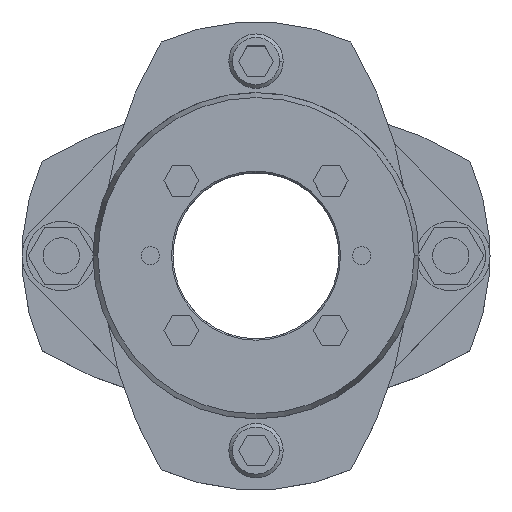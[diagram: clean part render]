
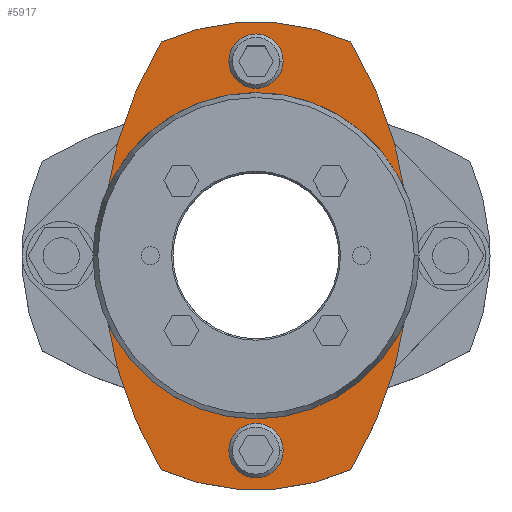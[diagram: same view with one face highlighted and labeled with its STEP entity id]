
A CAD part, top view. The second image highlights one B-rep face of the part: STEP entity #5917.
In plain terms, the highlighted planar face has unit normal (0, 0, 1).
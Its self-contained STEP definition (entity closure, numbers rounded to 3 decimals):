
#773=CARTESIAN_POINT('',(-51.,0.,22.0));
#774=VERTEX_POINT('',#773);
#790=CARTESIAN_POINT('',(-31.43,-70.841,22.0));
#791=VERTEX_POINT('',#790);
#798=CARTESIAN_POINT('',(87.,0.,22.0));
#799=DIRECTION('',(0.0,0.0,-1.0));
#800=DIRECTION('',(-1.0,0.0,0.0));
#801=AXIS2_PLACEMENT_3D('',#798,#799,#800);
#802=CIRCLE('',#801,138.);
#803=EDGE_CURVE('',#791,#774,#802,.T.);
#813=CARTESIAN_POINT('',(51.,0.,22.0));
#814=VERTEX_POINT('',#813);
#823=CARTESIAN_POINT('',(31.43,-70.841,22.0));
#824=VERTEX_POINT('',#823);
#825=CARTESIAN_POINT('',(-87.,0.,22.0));
#826=DIRECTION('',(0.0,0.0,-1.0));
#827=DIRECTION('',(-1.0,0.0,0.0));
#828=AXIS2_PLACEMENT_3D('',#825,#826,#827);
#829=CIRCLE('',#828,138.);
#830=EDGE_CURVE('',#814,#824,#829,.T.);
#1079=CARTESIAN_POINT('',(-41.0,0.,22.0));
#1080=VERTEX_POINT('',#1079);
#1130=CARTESIAN_POINT('',(41.0,0.,22.0));
#1131=VERTEX_POINT('',#1130);
#1138=CARTESIAN_POINT('',(0.,0.,22.0));
#1139=DIRECTION('',(0.0,0.0,-1.0));
#1140=DIRECTION('',(-1.0,0.0,0.0));
#1141=AXIS2_PLACEMENT_3D('',#1138,#1139,#1140);
#1142=CIRCLE('',#1141,41.0);
#1143=EDGE_CURVE('',#1080,#1131,#1142,.T.);
#1239=CARTESIAN_POINT('',(-9.,-64.5,22.0));
#1240=VERTEX_POINT('',#1239);
#1256=CARTESIAN_POINT('',(9.,-64.5,22.0));
#1257=VERTEX_POINT('',#1256);
#1264=CARTESIAN_POINT('',(0.,-64.5,22.0));
#1265=DIRECTION('',(0.0,0.0,-1.0));
#1266=DIRECTION('',(-1.0,0.0,0.0));
#1267=AXIS2_PLACEMENT_3D('',#1264,#1265,#1266);
#1268=CIRCLE('',#1267,9.0);
#1269=EDGE_CURVE('',#1240,#1257,#1268,.T.);
#1313=CARTESIAN_POINT('',(-9.,64.5,22.0));
#1314=VERTEX_POINT('',#1313);
#1330=CARTESIAN_POINT('',(9.,64.5,22.0));
#1331=VERTEX_POINT('',#1330);
#1338=CARTESIAN_POINT('',(0.,64.5,22.0));
#1339=DIRECTION('',(0.0,0.0,-1.0));
#1340=DIRECTION('',(-1.0,0.0,0.0));
#1341=AXIS2_PLACEMENT_3D('',#1338,#1339,#1340);
#1342=CIRCLE('',#1341,9.0);
#1343=EDGE_CURVE('',#1314,#1331,#1342,.T.);
#4458=CARTESIAN_POINT('',(0.,64.5,22.0));
#4459=DIRECTION('',(0.0,0.0,-1.0));
#4460=DIRECTION('',(-1.0,0.0,0.0));
#4461=AXIS2_PLACEMENT_3D('',#4458,#4459,#4460);
#4462=CIRCLE('',#4461,9.0);
#4463=EDGE_CURVE('',#1331,#1314,#4462,.T.);
#4518=CARTESIAN_POINT('',(0.,-64.5,22.0));
#4519=DIRECTION('',(0.0,0.0,-1.0));
#4520=DIRECTION('',(-1.0,0.0,0.0));
#4521=AXIS2_PLACEMENT_3D('',#4518,#4519,#4520);
#4522=CIRCLE('',#4521,9.0);
#4523=EDGE_CURVE('',#1257,#1240,#4522,.T.);
#5590=CARTESIAN_POINT('',(0.,0.,22.0));
#5591=DIRECTION('',(0.0,0.0,-1.0));
#5592=DIRECTION('',(-1.0,0.0,0.0));
#5593=AXIS2_PLACEMENT_3D('',#5590,#5591,#5592);
#5594=CIRCLE('',#5593,41.0);
#5595=EDGE_CURVE('',#1131,#1080,#5594,.T.);
#5811=CARTESIAN_POINT('',(-31.43,70.841,22.0));
#5812=VERTEX_POINT('',#5811);
#5813=CARTESIAN_POINT('',(31.43,70.841,22.0));
#5814=VERTEX_POINT('',#5813);
#5815=CARTESIAN_POINT('',(0.0,0.,22.0));
#5816=DIRECTION('',(0.0,0.0,-1.0));
#5817=DIRECTION('',(-1.0,0.0,0.0));
#5818=AXIS2_PLACEMENT_3D('',#5815,#5816,#5817);
#5819=CIRCLE('',#5818,77.5);
#5820=EDGE_CURVE('',#5812,#5814,#5819,.T.);
#5846=CARTESIAN_POINT('',(-87.,0.,22.0));
#5847=DIRECTION('',(0.0,0.0,-1.0));
#5848=DIRECTION('',(-1.0,0.0,0.0));
#5849=AXIS2_PLACEMENT_3D('',#5846,#5847,#5848);
#5850=CIRCLE('',#5849,138.);
#5851=EDGE_CURVE('',#5814,#814,#5850,.T.);
#5861=CARTESIAN_POINT('',(0.0,0.,22.0));
#5862=DIRECTION('',(0.0,0.0,-1.0));
#5863=DIRECTION('',(-1.0,0.0,0.0));
#5864=AXIS2_PLACEMENT_3D('',#5861,#5862,#5863);
#5865=CIRCLE('',#5864,77.5);
#5866=EDGE_CURVE('',#824,#791,#5865,.T.);
#5880=CARTESIAN_POINT('',(87.,0.,22.0));
#5881=DIRECTION('',(0.0,0.0,-1.0));
#5882=DIRECTION('',(-1.0,0.0,0.0));
#5883=AXIS2_PLACEMENT_3D('',#5880,#5881,#5882);
#5884=CIRCLE('',#5883,138.);
#5885=EDGE_CURVE('',#774,#5812,#5884,.T.);
#5892=CARTESIAN_POINT('',(0.,0.,22.0));
#5893=DIRECTION('',(0.0,0.0,1.0));
#5894=DIRECTION('',(-1.0,0.0,0.0));
#5895=AXIS2_PLACEMENT_3D('',#5892,#5893,#5894);
#5896=PLANE('',#5895);
#5897=ORIENTED_EDGE('',*,*,#5820,.F.);
#5898=ORIENTED_EDGE('',*,*,#5885,.F.);
#5899=ORIENTED_EDGE('',*,*,#803,.F.);
#5900=ORIENTED_EDGE('',*,*,#5866,.F.);
#5901=ORIENTED_EDGE('',*,*,#830,.F.);
#5902=ORIENTED_EDGE('',*,*,#5851,.F.);
#5903=EDGE_LOOP('',(#5897,#5898,#5899,#5900,#5901,#5902));
#5904=FACE_OUTER_BOUND('',#5903,.T.);
#5905=ORIENTED_EDGE('',*,*,#1343,.T.);
#5906=ORIENTED_EDGE('',*,*,#4463,.T.);
#5907=EDGE_LOOP('',(#5905,#5906));
#5908=FACE_BOUND('',#5907,.T.);
#5909=ORIENTED_EDGE('',*,*,#1269,.T.);
#5910=ORIENTED_EDGE('',*,*,#4523,.T.);
#5911=EDGE_LOOP('',(#5909,#5910));
#5912=FACE_BOUND('',#5911,.T.);
#5913=ORIENTED_EDGE('',*,*,#1143,.T.);
#5914=ORIENTED_EDGE('',*,*,#5595,.T.);
#5915=EDGE_LOOP('',(#5913,#5914));
#5916=FACE_BOUND('',#5915,.T.);
#5917=ADVANCED_FACE('',(#5904,#5908,#5912,#5916),#5896,.T.);
